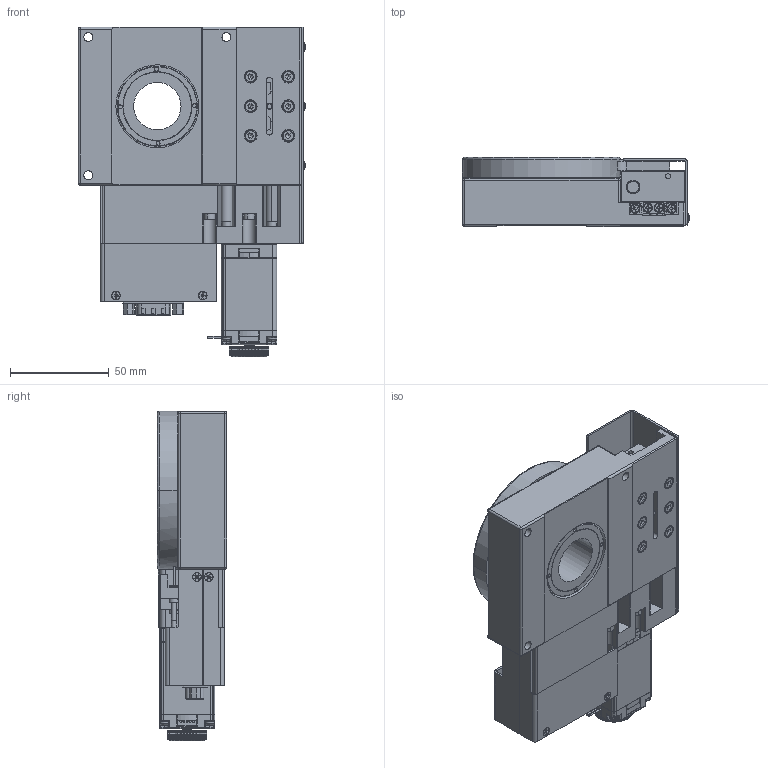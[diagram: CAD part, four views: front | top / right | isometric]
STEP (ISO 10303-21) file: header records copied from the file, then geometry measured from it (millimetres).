
FILE_DESCRIPTION (( 'STEP AP203' ), '1' );
FILE_NAME ('ARH80-A2P.STEP', '2017-04-24T05:43:01', ( 'user' ), ( '' ), 'SwSTEP 2.0', 'SolidWorks 2017', '' );
FILE_SCHEMA (( 'CONFIG_CONTROL_DESIGN' ));
Products named in the file (1): ARH80-A2P
Bounding box: 115.13 x 35 x 166.95 mm (x, y, z)
Surface area: 102192.1 mm2 (no closed solid volume)
Topology: 0 solids, 71 shells, 1723 faces, 6442 edges, 4585 vertices
Faces by surface type: plane 815, cylinder 526, torus 179, cone 111, bspline 72, sphere 20
Entity records: 72744 total; most frequent: CARTESIAN_POINT 20545, DIRECTION 10604, ORIENTED_EDGE 10004, EDGE_CURVE 6368, VERTEX_POINT 4569, AXIS2_PLACEMENT_3D 3706, LINE 3192, VECTOR 3192
